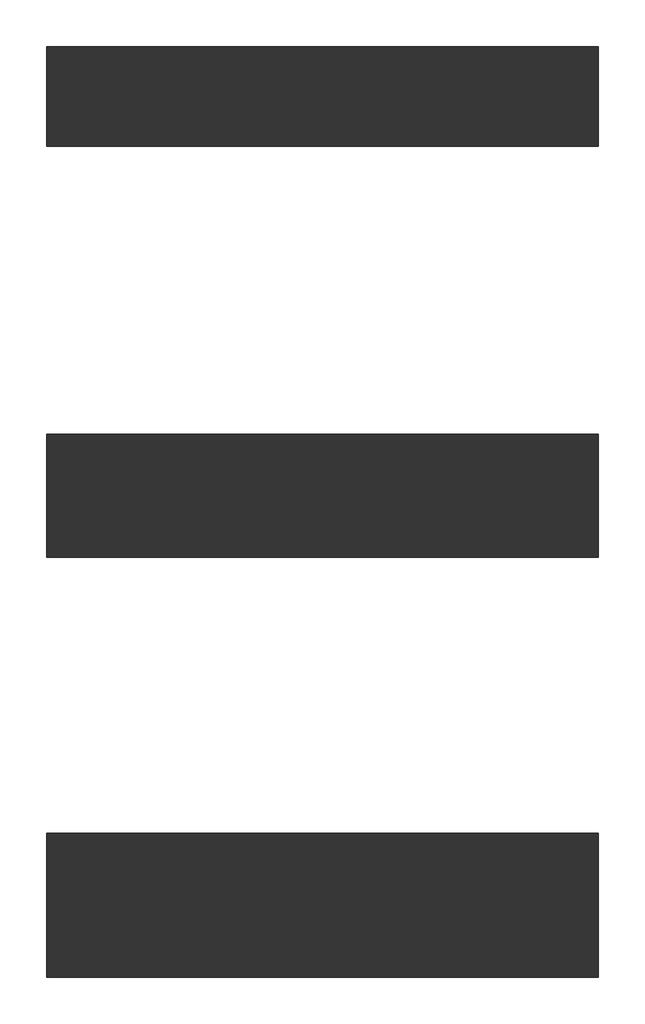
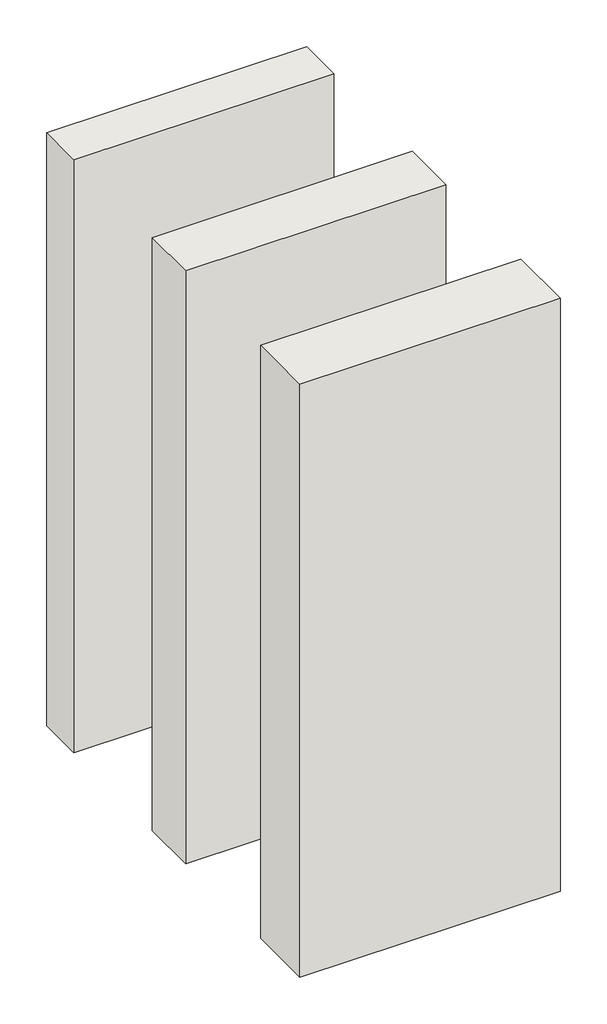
# One storey: 3 walls.
"""IFC4 building model written with IfcOpenShell, lengths in millimetres."""

from ifc_helpers import new_model, si_unit, origin, origin_with_axes, place, context, project, spatial, polyline, outline, extrude, element, save

model = new_model("IFC4")

# Units and contexts
model_context = context("Model", 3, world=origin())
ifc_project = project(units=[si_unit("LENGTHUNIT", "METRE", prefix="MILLI")], contexts=[model_context])

# Site, building, storey
site = spatial("IfcSite", under=ifc_project)
building = spatial("IfcBuilding", under=site)
storey = spatial("IfcBuildingStorey", under=building, Name="Уровень 1", Elevation=0.0)

# Walls
placement = place(None, origin())
element("IfcWall", 1, ObjectType="Перегородка-КНАУФ-С386.2- Применение внутри здания - +220/50@600 (Аквапанель)  12,5", at=placement, inside=storey, context=model_context, shape_type="SweptSolid", body=[
    extrude(outline(polyline([(-9315.7236634, 13371.7035262), (-10560.2640717, 13371.7035262), (-10560.2640717, 13596.7035262), (-9315.7236634, 13596.7035262), (-9315.7236634, 13371.7035262)])), origin_with_axes(), (0.0, 0.0, 1.0), 3000.0),
])
element("IfcWall", 2, ObjectType="Перегородка-КНАУФ-С386.2-Применение внутри здания-+220/75@600 (Аквапанель)  12,5", at=placement, inside=storey, context=model_context, shape_type="SweptSolid", body=[
    extrude(outline(polyline([(-9315.7236634, 12444.7035262), (-10560.2640717, 12444.7035262), (-10560.2640717, 12721.7035262), (-9315.7236634, 12721.7035262), (-9315.7236634, 12444.7035262)])), origin_with_axes(), (0.0, 0.0, 1.0), 3000.0),
])
element("IfcWall", 3, ObjectType="Перегородка-КНАУФ-С386.2- Применение внутри здания -+220/100@600  (Аквапанель)  12,5", at=placement, inside=storey, context=model_context, shape_type="SweptSolid", body=[
    extrude(outline(polyline([(-9315.7236634, 11496.7035262), (-10560.2640717, 11496.7035262), (-10560.2640717, 11821.7035262), (-9315.7236634, 11821.7035262), (-9315.7236634, 11496.7035262)])), origin_with_axes(), (0.0, 0.0, 1.0), 3000.0),
])

save(model, "model.ifc")
